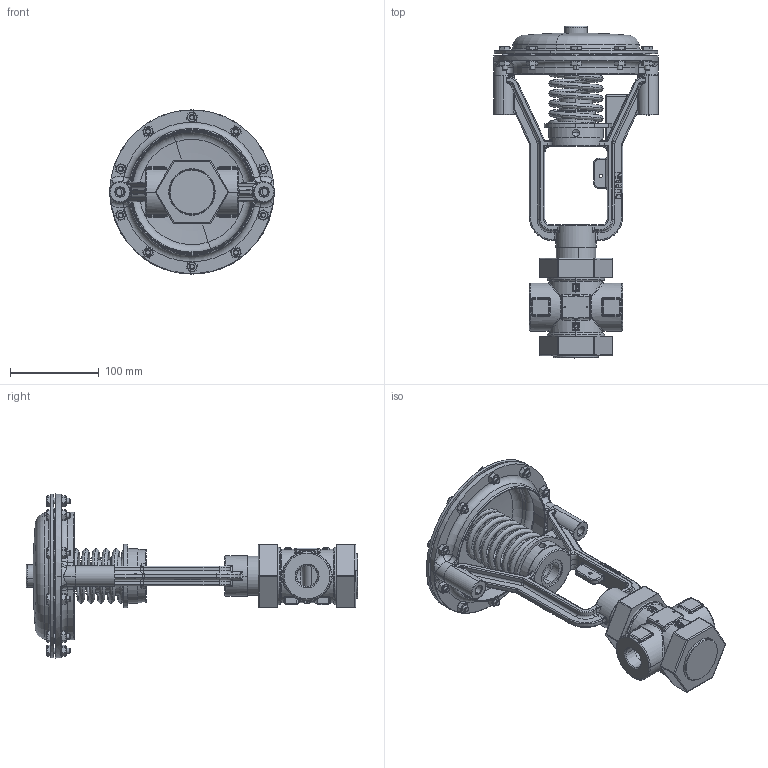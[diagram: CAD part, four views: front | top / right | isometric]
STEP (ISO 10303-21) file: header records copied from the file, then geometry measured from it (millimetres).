
FILE_DESCRIPTION (( 'STEP AP203' ), '1' );
FILE_NAME ('.75-1.25 2W SM NPT VP-STEP.STEP', '2018-11-07T16:04:14', ( '' ), ( '' ), 'SwSTEP 2.0', 'SolidWorks 2012', '' );
FILE_SCHEMA (( 'CONFIG_CONTROL_DESIGN' ));
Length unit declared in the file: inch
Products named in the file (15): .75-1.25 2W SM NPT VP-STEP; VP505-SS; H060-03; H096-10; D293-070DR_V-PORT COMPRESSED; C133-009D-AL; C543-001D; C293-023DR; D771; C293-023DM; C893-015D-SS; D283-021D-SS; C663-026D-SS; C213-020D-SS; C113-059D-SS
Assembly tree (33 placements, depth 3):
  .75-1.25 2W SM NPT VP-STEP
    C113-059D-SS
    C213-020D-SS
    C663-026D-SS  x2
    D283-021D-SS
    C893-015D-SS
    C293-023DR
      C293-023DM
      D771
    C543-001D
    C133-009D-AL
    D293-070DR_V-PORT COMPRESSED
    H096-10  x10
    H060-03  x10
    VP505-SS
Bounding box: 185.42 x 373.24 x 184.53 mm (x, y, z)
Volume: 848604 mm3; surface area: 341029 mm2
Topology: 32 solids, 32 shells, 3425 faces, 8000 edges, 4615 vertices
Faces by surface type: plane 944, cylinder 752, bspline 694, cone 395, torus 327, sphere 313
Entity records: 120625 total; most frequent: CARTESIAN_POINT 65597, ORIENTED_EDGE 11664, DIRECTION 10092, EDGE_CURVE 5832, AXIS2_PLACEMENT_3D 3879, VERTEX_POINT 3569, EDGE_LOOP 2597, FACE_OUTER_BOUND 2404
